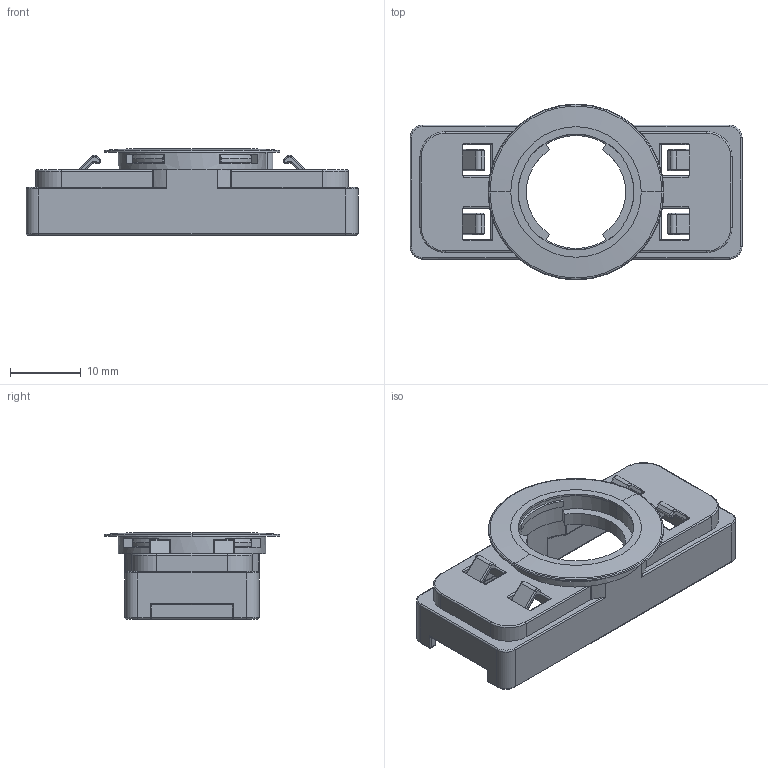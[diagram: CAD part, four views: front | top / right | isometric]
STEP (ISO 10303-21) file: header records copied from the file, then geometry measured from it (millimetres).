
FILE_DESCRIPTION((''),'2;1');
FILE_NAME('15013342Z','2019-05-29T11:56:32',('muell'),(''),'CREO PARAMETRIC BY PTC INC, 2017380','CREO PARAMETRIC BY PTC INC, 2017380','');
FILE_SCHEMA(('AUTOMOTIVE_DESIGN { 1 0 10303 214 1 1 1 1 }'));
Length unit declared in the file: millimetre
Products named in the file (1): 15013342Z
Bounding box: 46.8 x 24.8 x 12.12 mm (x, y, z)
Volume: 2596.2 mm3; surface area: 4486.2 mm2
Topology: 1 solids, 1 shells, 474 faces, 1445 edges, 962 vertices
Faces by surface type: cylinder 193, plane 162, torus 68, bspline 28, cone 12, sphere 11
Entity records: 25208 total; most frequent: CARTESIAN_POINT 4119, ORIENTED_EDGE 2862, DIRECTION 2753, PRESENTATION_STYLE_ASSIGNMENT 1906, STYLED_ITEM 1432, CURVE_STYLE 1431, EDGE_CURVE 1431, AXIS2_PLACEMENT_3D 1082
